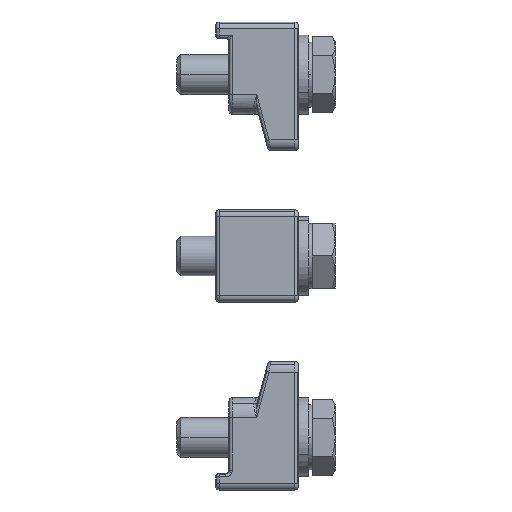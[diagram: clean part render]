
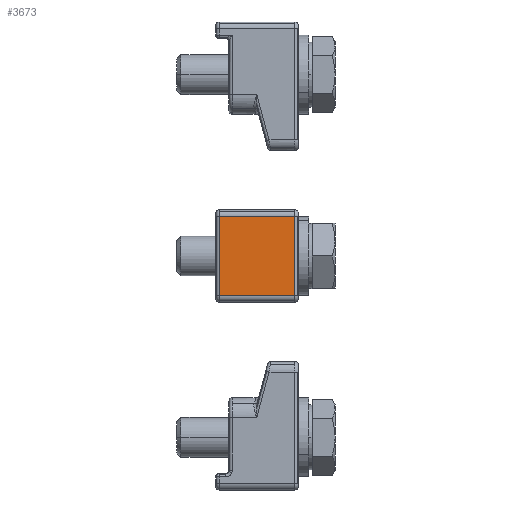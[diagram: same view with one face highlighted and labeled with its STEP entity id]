
A CAD part, left-side view. The second image highlights one B-rep face of the part: STEP entity #3673.
In plain terms, the highlighted planar face has unit normal (-1, 0, 0).
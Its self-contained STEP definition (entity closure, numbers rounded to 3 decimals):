
#3374=CARTESIAN_POINT('',(-35.5,-12.,6.));
#3375=VERTEX_POINT('',#3374);
#3419=CARTESIAN_POINT('',(-35.5,-12.,-6.));
#3420=VERTEX_POINT('',#3419);
#3421=CARTESIAN_POINT('',(-35.5,-12.,6.));
#3422=DIRECTION('',(0.0,0.0,-1.0));
#3423=VECTOR('',#3422,12.);
#3424=LINE('',#3421,#3423);
#3425=EDGE_CURVE('',#3375,#3420,#3424,.T.);
#3632=CARTESIAN_POINT('',(-35.5,-0.5,-6.));
#3633=VERTEX_POINT('',#3632);
#3634=CARTESIAN_POINT('',(-35.5,-12.,-6.));
#3635=DIRECTION('',(0.0,1.0,0.0));
#3636=VECTOR('',#3635,11.5);
#3637=LINE('',#3634,#3636);
#3638=EDGE_CURVE('',#3420,#3633,#3637,.T.);
#3650=CARTESIAN_POINT('',(-35.5,0.,0.));
#3651=DIRECTION('',(-1.0,0.0,0.0));
#3652=DIRECTION('',(0.0,0.0,-1.0));
#3653=AXIS2_PLACEMENT_3D('',#3650,#3651,#3652);
#3654=PLANE('',#3653);
#3655=ORIENTED_EDGE('',*,*,#3425,.F.);
#3656=CARTESIAN_POINT('',(-35.5,-0.5,6.));
#3657=VERTEX_POINT('',#3656);
#3658=CARTESIAN_POINT('',(-35.5,-0.5,6.));
#3659=DIRECTION('',(0.0,-1.0,0.0));
#3660=VECTOR('',#3659,11.5);
#3661=LINE('',#3658,#3660);
#3662=EDGE_CURVE('',#3657,#3375,#3661,.T.);
#3663=ORIENTED_EDGE('',*,*,#3662,.F.);
#3664=CARTESIAN_POINT('',(-35.5,-0.5,-6.));
#3665=DIRECTION('',(0.0,0.0,1.0));
#3666=VECTOR('',#3665,12.);
#3667=LINE('',#3664,#3666);
#3668=EDGE_CURVE('',#3633,#3657,#3667,.T.);
#3669=ORIENTED_EDGE('',*,*,#3668,.F.);
#3670=ORIENTED_EDGE('',*,*,#3638,.F.);
#3671=EDGE_LOOP('',(#3655,#3663,#3669,#3670));
#3672=FACE_OUTER_BOUND('',#3671,.T.);
#3673=ADVANCED_FACE('',(#3672),#3654,.T.);
